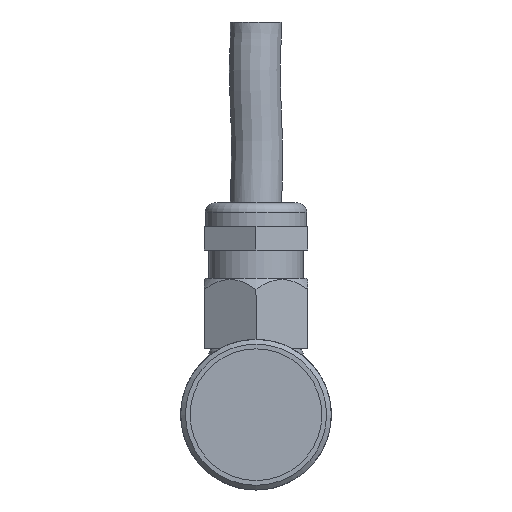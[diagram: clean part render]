
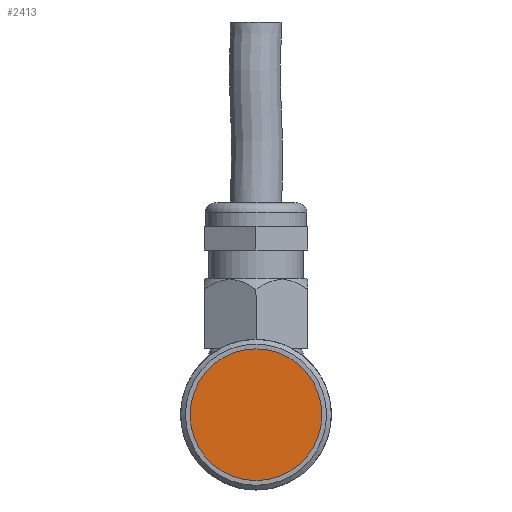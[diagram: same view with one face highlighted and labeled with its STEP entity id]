
A CAD part, left-side view. The second image highlights one B-rep face of the part: STEP entity #2413.
In plain terms, the highlighted planar face has unit normal (-1, 0, 0).
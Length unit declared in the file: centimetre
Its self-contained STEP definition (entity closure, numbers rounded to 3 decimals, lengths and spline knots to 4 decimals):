
#1022=VERTEX_POINT('',#3159);
#1190=CIRCLE('',#2558,0.7);
#1265=EDGE_CURVE('',#1022,#1022,#1190,.T.);
#1564=ORIENTED_EDGE('',*,*,#1265,.T.);
#2108=EDGE_LOOP('',(#1564));
#2265=FACE_BOUND('',#2108,.T.);
#2413=ADVANCED_FACE('',(#2265),#5118,.F.);
#2558=AXIS2_PLACEMENT_3D('',#3158,#2753,#2754);
#2559=AXIS2_PLACEMENT_3D('',#3160,#2755,$);
#2753=DIRECTION('',(-1.,0.,0.));
#2754=DIRECTION('',(0.,0.,-0.7));
#2755=DIRECTION('',(1.,0.,0.));
#3158=CARTESIAN_POINT('',(-2.4,0.,0.));
#3159=CARTESIAN_POINT('',(-2.4,0.,-0.7));
#3160=CARTESIAN_POINT('',(-2.4,0.,0.));
#5118=PLANE('',#2559);
